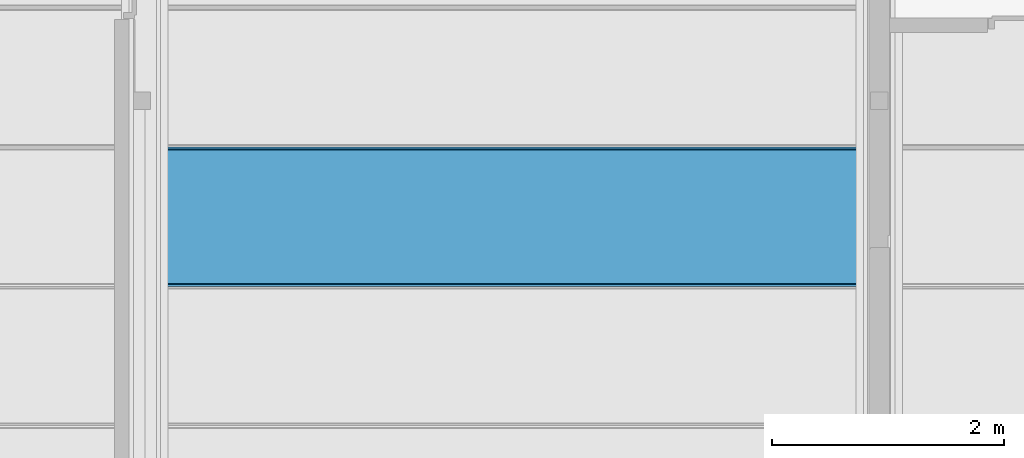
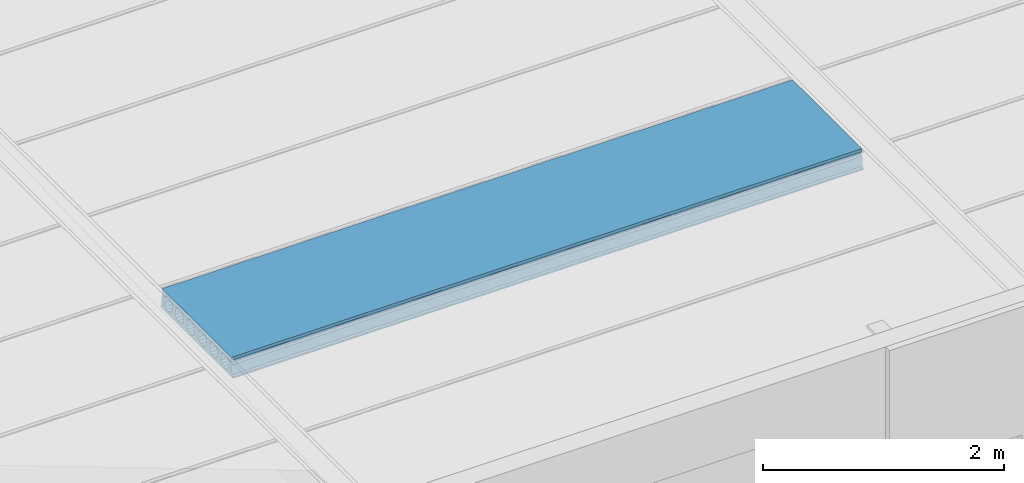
# One storey, part 8 of 45: 1 beam.
"""IFC2X3 building model written with IfcOpenShell, lengths in millimetres."""

from ifc_helpers import new_model, entity, si_unit, converted_unit, frame, origin, place, context, subcontext, project, spatial, faceted_brep, material, element, save


model = new_model("IFC2X3")

# Units and contexts
model_context = context("Model", 3, precision=1e-05, world=origin())
plan_context = context("Plan", 3, precision=1e-05, world=origin())
body_context = subcontext(model_context, "Body", "Model", "MODEL_VIEW")
ifc_project = project(units=[si_unit("LENGTHUNIT", "METRE", prefix="MILLI"), converted_unit("PLANEANGLEUNIT", "DEGREE", entity("IfcPlaneAngleMeasure", 0.0174532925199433), si_unit("PLANEANGLEUNIT", "RADIAN"), dimensions=[0, 0, 0, 0, 0, 0, 0]), si_unit("AREAUNIT", "SQUARE_METRE"), si_unit("VOLUMEUNIT", "CUBIC_METRE")], contexts=[model_context, plan_context])

# Building, storey
building_placement = place(None, origin())
building = spatial("IfcBuilding", under=ifc_project, at=building_placement, Name="HEKF Administrasjonbygg", CompositionType="ELEMENT")
storey_placement = place(building_placement, frame((0.0, 0.0, 6500.0), z_axis=(0.0, 0.0, 1.0), x_axis=(1.0, 0.0, 0.0)))
storey = spatial("IfcBuildingStorey", under=building, at=storey_placement, Name="Plan 1", CompositionType="ELEMENT", Elevation=6500.0)

# Beam
ifc_material = material()
beam_placement = place(storey_placement, frame((0.0, 0.0, -6500.0), z_axis=(0.0, 0.0, 1.0), x_axis=(1.0, 0.0, 0.0)))
element("IfcBeam", 1, at=beam_placement, inside=storey, material=ifc_material, context=body_context, shape_type="Brep", body=[
    faceted_brep([(10135.0, -8399.999999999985, 9684.999999), (10135.0, -8399.999999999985, 9670.0), (16189.99999999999, -8400.0, 9670.000000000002), (16189.99999999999, -8400.0, 9684.999999), (10135.0, -9599.999999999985, 9684.999999), (10135.0, -9599.999999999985, 9670.0), (10135.0, -8399.999999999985, 9670.0), (10135.0, -8399.999999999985, 9684.999999), (10135.0, -8414.99987952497, 9699.999998), (10135.0, -8420.000002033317, 9794.999985), (10135.0, -8435.000003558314, 9809.999985), (10135.0, -8435.000003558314, 9829.999985), (10135.0, -8422.727297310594, 9842.272583), (10135.0, -8424.047732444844, 9870.0), (10135.0, -9575.95237255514, 9870.0), (10135.0, -9577.272729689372, 9842.272735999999), (10135.0, -9565.00000044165, 9829.999985), (10135.0, -9565.00000044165, 9809.999985), (10135.0, -9580.000001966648, 9794.999985), (10135.0, -9584.999999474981, 9699.999998), (10135.0, -9474.999987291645, 9694.999989), (10135.0, -9503.701261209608, 9700.709023), (10135.0, -9528.033020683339, 9716.966995), (10135.0, -9544.290964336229, 9741.298752), (10135.0, -9544.290960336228, 9798.701262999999), (10135.0, -9528.03299768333, 9823.03299), (10135.0, -9503.70124620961, 9839.290955), (10135.0, -9474.999987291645, 9845.0), (10135.0, -9446.298721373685, 9839.290955), (10135.0, -9421.96697689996, 9823.033005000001), (10135.0, -9405.709010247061, 9798.701233), (10135.0, -9405.708980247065, 9741.298767), (10135.0, -9421.966961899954, 9716.966995), (10135.0, -9446.29870537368, 9700.709023), (10135.0, -9284.999967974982, 9694.999989), (10135.0, -9313.701241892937, 9700.709023), (10135.0, -9338.033001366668, 9716.966995), (10135.0, -9354.290945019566, 9741.298752), (10135.0, -9354.290941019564, 9798.701262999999), (10135.0, -9338.032978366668, 9823.03299), (10135.0, -9313.70122689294, 9839.290955), (10135.0, -9284.999967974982, 9845.0), (10135.0, -9256.298702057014, 9839.290955), (10135.0, -9231.966957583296, 9823.033005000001), (10135.0, -9215.708990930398, 9798.701233), (10135.0, -9215.708960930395, 9741.298767), (10135.0, -9231.966942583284, 9716.966995), (10135.0, -9256.298686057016, 9700.709023), (10135.0, -9094.999948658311, 9694.999989), (10135.0, -9123.701222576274, 9700.709023), (10135.0, -9148.032982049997, 9716.966995), (10135.0, -9164.290925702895, 9741.298752), (10135.0, -9164.290921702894, 9798.701262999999), (10135.0, -9148.032959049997, 9823.03299), (10135.0, -9123.701207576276, 9839.290955), (10135.0, -9094.999948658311, 9845.0), (10135.0, -9066.298682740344, 9839.290955), (10135.0, -9041.966938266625, 9823.033005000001), (10135.0, -9025.708971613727, 9798.701233), (10135.0, -9025.708941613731, 9741.298767), (10135.0, -9041.96692326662, 9716.966995), (10135.0, -9066.298666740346, 9700.709023), (10135.0, -8904.99992934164, 9694.999989), (10135.0, -8933.701203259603, 9700.709023), (10135.0, -8958.032962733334, 9716.966995), (10135.0, -8974.290906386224, 9741.298752), (10135.0, -8974.290902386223, 9798.701262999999), (10135.0, -8958.032939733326, 9823.03299), (10135.0, -8933.701188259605, 9839.290955), (10135.0, -8904.99992934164, 9845.0), (10135.0, -8876.29866342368, 9839.290955), (10135.0, -8851.966918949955, 9823.033005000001), (10135.0, -8835.708952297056, 9798.701233), (10135.0, -8835.70892229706, 9741.298767), (10135.0, -8851.96690394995, 9716.966995), (10135.0, -8876.298647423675, 9700.709023), (10135.0, -8714.999910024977, 9694.999989), (10135.0, -8743.701183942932, 9700.709023), (10135.0, -8768.032943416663, 9716.966995), (10135.0, -8784.290887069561, 9741.298752), (10135.0, -8784.29088306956, 9798.701262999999), (10135.0, -8768.032920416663, 9823.03299), (10135.0, -8743.701168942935, 9839.290955), (10135.0, -8714.999910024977, 9845.0), (10135.0, -8686.29864410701, 9839.290955), (10135.0, -8661.966899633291, 9823.033005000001), (10135.0, -8645.708932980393, 9798.701233), (10135.0, -8645.70890298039, 9741.298767), (10135.0, -8661.966884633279, 9716.966995), (10135.0, -8686.298628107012, 9700.709023), (10135.0, -8524.999890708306, 9694.999989), (10135.0, -8553.701164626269, 9700.709023), (10135.0, -8578.032924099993, 9716.966995), (10135.0, -8594.29086775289, 9741.298752), (10135.0, -8594.290863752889, 9798.701262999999), (10135.0, -8578.032901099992, 9823.03299), (10135.0, -8553.701149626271, 9839.290955), (10135.0, -8524.999890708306, 9845.0), (10135.0, -8496.298624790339, 9839.290955), (10135.0, -8471.96688031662, 9823.033005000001), (10135.0, -8455.708913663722, 9798.701233), (10135.0, -8455.708883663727, 9741.298767), (10135.0, -8471.966865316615, 9716.966995), (10135.0, -8496.298608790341, 9700.709023), (16190.0, -9600.0, 9684.999999), (16190.0, -9600.0, 9670.0), (10135.0, -9599.999999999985, 9670.0), (10135.0, -9599.999999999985, 9684.999999), (16189.99999999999, -8400.0, 9684.999999), (16189.99999999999, -8400.0, 9670.000000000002), (16190.0, -9600.0, 9670.0), (16190.0, -9600.0, 9684.999999), (16190.0, -9584.999999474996, 9699.999998), (16190.0, -9580.000001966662, 9794.999985), (16190.0, -9565.000000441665, 9809.999985), (16190.0, -9565.000000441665, 9829.999985), (16190.0, -9577.272729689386, 9842.272735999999), (16190.0, -9575.952372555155, 9870.0), (16190.0, -8424.047732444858, 9870.0), (16190.0, -8422.727297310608, 9842.272583), (16190.0, -8435.000003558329, 9829.999985), (16190.0, -8435.000003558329, 9809.999985), (16190.0, -8420.000002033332, 9794.999985), (16190.0, -8414.999879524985, 9699.999998), (16190.0, -8524.99989070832, 9694.999989), (16190.0, -8496.298608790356, 9700.709023), (16190.0, -8471.96686531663, 9716.966995), (16190.0, -8455.708883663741, 9741.298767), (16190.0, -8455.708913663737, 9798.701233), (16190.0, -8471.966880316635, 9823.033005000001), (16190.0, -8496.298624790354, 9839.290955), (16190.0, -8524.99989070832, 9845.0), (16190.0, -8553.701149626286, 9839.290955), (16190.0, -8578.032901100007, 9823.03299), (16190.0, -8594.290863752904, 9798.701262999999), (16190.0, -8594.290867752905, 9741.298752), (16190.0, -8578.032924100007, 9716.966995), (16190.0, -8553.701164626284, 9700.709023), (16190.0, -8714.999910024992, 9694.999989), (16190.0, -8686.298628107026, 9700.709023), (16190.0, -8661.966884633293, 9716.966995), (16190.0, -8645.708902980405, 9741.298767), (16190.0, -8645.708932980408, 9798.701233), (16190.0, -8661.966899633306, 9823.033005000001), (16190.0, -8686.298644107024, 9839.290955), (16190.0, -8714.999910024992, 9845.0), (16190.0, -8743.70116894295, 9839.290955), (16190.0, -8768.032920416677, 9823.03299), (16190.0, -8784.290883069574, 9798.701262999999), (16190.0, -8784.290887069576, 9741.298752), (16190.0, -8768.032943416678, 9716.966995), (16190.0, -8743.701183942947, 9700.709023), (16190.0, -8904.999929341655, 9694.999989), (16190.0, -8876.29864742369, 9700.709023), (16190.0, -8851.966903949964, 9716.966995), (16190.0, -8835.708922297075, 9741.298767), (16190.0, -8835.708952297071, 9798.701233), (16190.0, -8851.96691894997, 9823.033005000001), (16190.0, -8876.298663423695, 9839.290955), (16190.0, -8904.999929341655, 9845.0), (16190.0, -8933.70118825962, 9839.290955), (16190.0, -8958.03293973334, 9823.03299), (16190.0, -8974.290902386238, 9798.701262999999), (16190.0, -8974.290906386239, 9741.298752), (16190.0, -8958.032962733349, 9716.966995), (16190.0, -8933.701203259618, 9700.709023), (16190.0, -9094.999948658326, 9694.999989), (16190.0, -9066.29866674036, 9700.709023), (16190.0, -9041.966923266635, 9716.966995), (16190.0, -9025.708941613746, 9741.298767), (16190.0, -9025.708971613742, 9798.701233), (16190.0, -9041.96693826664, 9823.033005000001), (16190.0, -9066.298682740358, 9839.290955), (16190.0, -9094.999948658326, 9845.0), (16190.0, -9123.70120757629, 9839.290955), (16190.0, -9148.032959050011, 9823.03299), (16190.0, -9164.290921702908, 9798.701262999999), (16190.0, -9164.29092570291, 9741.298752), (16190.0, -9148.032982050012, 9716.966995), (16190.0, -9123.701222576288, 9700.709023), (16190.0, -9284.999967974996, 9694.999989), (16190.0, -9256.29868605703, 9700.709023), (16190.0, -9231.966942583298, 9716.966995), (16190.0, -9215.70896093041, 9741.298767), (16190.0, -9215.708990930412, 9798.701233), (16190.0, -9231.96695758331, 9823.033005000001), (16190.0, -9256.298702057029, 9839.290955), (16190.0, -9284.999967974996, 9845.0), (16190.0, -9313.701226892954, 9839.290955), (16190.0, -9338.032978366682, 9823.03299), (16190.0, -9354.290941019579, 9798.701262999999), (16190.0, -9354.29094501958, 9741.298752), (16190.0, -9338.033001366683, 9716.966995), (16190.0, -9313.701241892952, 9700.709023), (16190.0, -9474.99998729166, 9694.999989), (16190.0, -9446.298705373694, 9700.709023), (16190.0, -9421.966961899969, 9716.966995), (16190.0, -9405.70898024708, 9741.298767), (16190.0, -9405.709010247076, 9798.701233), (16190.0, -9421.966976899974, 9823.033005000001), (16190.0, -9446.2987213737, 9839.290955), (16190.0, -9474.99998729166, 9845.0), (16190.0, -9503.701246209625, 9839.290955), (16190.0, -9528.032997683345, 9823.03299), (16190.0, -9544.290960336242, 9798.701262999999), (16190.0, -9544.290964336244, 9741.298752), (16190.0, -9528.033020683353, 9716.966995), (16190.0, -9503.701261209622, 9700.709023), (10135.0, -9599.999999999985, 9684.999999), (10135.0, -9584.999999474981, 9699.999998), (16190.0, -9584.999999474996, 9699.999998), (16190.0, -9600.0, 9684.999999), (10135.0, -9584.999999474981, 9699.999998), (10135.0, -9580.000001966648, 9794.999985), (16190.0, -9580.000001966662, 9794.999985), (16190.0, -9584.999999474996, 9699.999998), (10135.0, -9580.000001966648, 9794.999985), (10135.0, -9565.00000044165, 9809.999985), (16190.0, -9565.000000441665, 9809.999985), (16190.0, -9580.000001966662, 9794.999985), (10135.0, -9565.00000044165, 9809.999985), (10135.0, -9565.00000044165, 9829.999985), (16190.0, -9565.000000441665, 9829.999985), (16190.0, -9565.000000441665, 9809.999985), (10135.0, -9565.00000044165, 9829.999985), (10135.0, -9577.272729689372, 9842.272735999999), (16190.0, -9577.272729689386, 9842.272735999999), (16190.0, -9565.000000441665, 9829.999985), (10135.0, -9577.272729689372, 9842.272735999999), (10135.0, -9575.95237255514, 9870.0), (16190.0, -9575.952372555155, 9870.0), (16190.0, -9577.272729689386, 9842.272735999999), (10135.0, -9575.95237255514, 9870.0), (10135.0, -8424.047732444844, 9870.0), (16190.0, -8424.047732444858, 9870.0), (16190.0, -9575.952372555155, 9870.0), (10135.0, -8424.047732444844, 9870.0), (10135.0, -8422.727297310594, 9842.272583), (16190.0, -8422.727297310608, 9842.272583), (16190.0, -8424.047732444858, 9870.0), (10135.0, -8422.727297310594, 9842.272583), (10135.0, -8435.000003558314, 9829.999985), (16190.0, -8435.000003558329, 9829.999985), (16190.0, -8422.727297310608, 9842.272583), (10135.0, -8435.000003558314, 9829.999985), (10135.0, -8435.000003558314, 9809.999985), (16190.0, -8435.000003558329, 9809.999985), (16190.0, -8435.000003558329, 9829.999985), (10135.0, -8435.000003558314, 9809.999985), (10135.0, -8420.000002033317, 9794.999985), (16190.0, -8420.000002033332, 9794.999985), (16190.0, -8435.000003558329, 9809.999985), (10135.0, -8420.000002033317, 9794.999985), (10135.0, -8414.99987952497, 9699.999998), (16190.0, -8414.999879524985, 9699.999998), (16190.0, -8420.000002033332, 9794.999985), (10135.0, -8414.99987952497, 9699.999998), (10135.0, -8399.999999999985, 9684.999999), (16189.99999999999, -8400.0, 9684.999999), (16190.0, -8414.999879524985, 9699.999998), (10135.0, -8399.999999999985, 9670.0), (10135.0, -9599.999999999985, 9670.0), (16190.0, -9600.0, 9670.0), (16189.99999999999, -8400.0, 9670.000000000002), (10135.0, -8524.999890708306, 9694.999989), (10135.0, -8496.298608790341, 9700.709023), (16190.0, -8496.298608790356, 9700.709023), (16190.0, -8524.99989070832, 9694.999989), (10135.0, -8496.298608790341, 9700.709023), (10135.0, -8471.966865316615, 9716.966995), (16190.0, -8471.96686531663, 9716.966995), (16190.0, -8496.298608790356, 9700.709023), (10135.0, -8471.966865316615, 9716.966995), (10135.0, -8455.708883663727, 9741.298767), (16190.0, -8455.708883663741, 9741.298767), (16190.0, -8471.96686531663, 9716.966995), (10135.0, -8455.708883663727, 9741.298767), (10135.0, -8455.708913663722, 9798.701233), (16190.0, -8455.708913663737, 9798.701233), (16190.0, -8455.708883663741, 9741.298767), (10135.0, -8455.708913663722, 9798.701233), (10135.0, -8471.96688031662, 9823.033005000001), (16190.0, -8471.966880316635, 9823.033005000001), (16190.0, -8455.708913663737, 9798.701233), (10135.0, -8471.96688031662, 9823.033005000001), (10135.0, -8496.298624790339, 9839.290955), (16190.0, -8496.298624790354, 9839.290955), (16190.0, -8471.966880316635, 9823.033005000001), (10135.0, -8496.298624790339, 9839.290955), (10135.0, -8524.999890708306, 9845.0), (16190.0, -8524.99989070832, 9845.0), (16190.0, -8496.298624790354, 9839.290955), (10135.0, -8524.999890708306, 9845.0), (10135.0, -8553.701149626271, 9839.290955), (16190.0, -8553.701149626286, 9839.290955), (16190.0, -8524.99989070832, 9845.0), (10135.0, -8553.701149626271, 9839.290955), (10135.0, -8578.032901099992, 9823.03299), (16190.0, -8578.032901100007, 9823.03299), (16190.0, -8553.701149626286, 9839.290955), (10135.0, -8578.032901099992, 9823.03299), (10135.0, -8594.290863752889, 9798.701262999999), (16190.0, -8594.290863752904, 9798.701262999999), (16190.0, -8578.032901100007, 9823.03299), (10135.0, -8594.290863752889, 9798.701262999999), (10135.0, -8594.29086775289, 9741.298752), (16190.0, -8594.290867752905, 9741.298752), (16190.0, -8594.290863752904, 9798.701262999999), (10135.0, -8594.29086775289, 9741.298752), (10135.0, -8578.032924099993, 9716.966995), (16190.0, -8578.032924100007, 9716.966995), (16190.0, -8594.290867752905, 9741.298752), (10135.0, -8578.032924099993, 9716.966995), (10135.0, -8553.701164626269, 9700.709023), (16190.0, -8553.701164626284, 9700.709023), (16190.0, -8578.032924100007, 9716.966995), (10135.0, -8553.701164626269, 9700.709023), (10135.0, -8524.999890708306, 9694.999989), (16190.0, -8524.99989070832, 9694.999989), (16190.0, -8553.701164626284, 9700.709023), (10135.0, -8714.999910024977, 9694.999989), (10135.0, -8686.298628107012, 9700.709023), (16190.0, -8686.298628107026, 9700.709023), (16190.0, -8714.999910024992, 9694.999989), (10135.0, -8686.298628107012, 9700.709023), (10135.0, -8661.966884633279, 9716.966995), (16190.0, -8661.966884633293, 9716.966995), (16190.0, -8686.298628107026, 9700.709023), (10135.0, -8661.966884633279, 9716.966995), (10135.0, -8645.70890298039, 9741.298767), (16190.0, -8645.708902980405, 9741.298767), (16190.0, -8661.966884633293, 9716.966995), (10135.0, -8645.70890298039, 9741.298767), (10135.0, -8645.708932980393, 9798.701233), (16190.0, -8645.708932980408, 9798.701233), (16190.0, -8645.708902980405, 9741.298767), (10135.0, -8645.708932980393, 9798.701233), (10135.0, -8661.966899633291, 9823.033005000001), (16190.0, -8661.966899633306, 9823.033005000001), (16190.0, -8645.708932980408, 9798.701233), (10135.0, -8661.966899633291, 9823.033005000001), (10135.0, -8686.29864410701, 9839.290955), (16190.0, -8686.298644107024, 9839.290955), (16190.0, -8661.966899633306, 9823.033005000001), (10135.0, -8686.29864410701, 9839.290955), (10135.0, -8714.999910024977, 9845.0), (16190.0, -8714.999910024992, 9845.0), (16190.0, -8686.298644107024, 9839.290955), (10135.0, -8714.999910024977, 9845.0), (10135.0, -8743.701168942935, 9839.290955), (16190.0, -8743.70116894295, 9839.290955), (16190.0, -8714.999910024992, 9845.0), (10135.0, -8743.701168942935, 9839.290955), (10135.0, -8768.032920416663, 9823.03299), (16190.0, -8768.032920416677, 9823.03299), (16190.0, -8743.70116894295, 9839.290955), (10135.0, -8768.032920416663, 9823.03299), (10135.0, -8784.29088306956, 9798.701262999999), (16190.0, -8784.290883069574, 9798.701262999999), (16190.0, -8768.032920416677, 9823.03299), (10135.0, -8784.29088306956, 9798.701262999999), (10135.0, -8784.290887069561, 9741.298752), (16190.0, -8784.290887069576, 9741.298752), (16190.0, -8784.290883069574, 9798.701262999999), (10135.0, -8784.290887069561, 9741.298752), (10135.0, -8768.032943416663, 9716.966995), (16190.0, -8768.032943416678, 9716.966995), (16190.0, -8784.290887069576, 9741.298752), (10135.0, -8768.032943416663, 9716.966995), (10135.0, -8743.701183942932, 9700.709023), (16190.0, -8743.701183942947, 9700.709023), (16190.0, -8768.032943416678, 9716.966995), (10135.0, -8743.701183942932, 9700.709023), (10135.0, -8714.999910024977, 9694.999989), (16190.0, -8714.999910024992, 9694.999989), (16190.0, -8743.701183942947, 9700.709023), (10135.0, -8904.99992934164, 9694.999989), (10135.0, -8876.298647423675, 9700.709023), (16190.0, -8876.29864742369, 9700.709023), (16190.0, -8904.999929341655, 9694.999989), (10135.0, -8876.298647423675, 9700.709023), (10135.0, -8851.96690394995, 9716.966995), (16190.0, -8851.966903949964, 9716.966995), (16190.0, -8876.29864742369, 9700.709023), (10135.0, -8851.96690394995, 9716.966995), (10135.0, -8835.70892229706, 9741.298767), (16190.0, -8835.708922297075, 9741.298767), (16190.0, -8851.966903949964, 9716.966995), (10135.0, -8835.70892229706, 9741.298767), (10135.0, -8835.708952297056, 9798.701233), (16190.0, -8835.708952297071, 9798.701233), (16190.0, -8835.708922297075, 9741.298767), (10135.0, -8835.708952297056, 9798.701233), (10135.0, -8851.966918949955, 9823.033005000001), (16190.0, -8851.96691894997, 9823.033005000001), (16190.0, -8835.708952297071, 9798.701233), (10135.0, -8851.966918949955, 9823.033005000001), (10135.0, -8876.29866342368, 9839.290955), (16190.0, -8876.298663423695, 9839.290955), (16190.0, -8851.96691894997, 9823.033005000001), (10135.0, -8876.29866342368, 9839.290955), (10135.0, -8904.99992934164, 9845.0), (16190.0, -8904.999929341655, 9845.0), (16190.0, -8876.298663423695, 9839.290955), (10135.0, -8904.99992934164, 9845.0), (10135.0, -8933.701188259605, 9839.290955), (16190.0, -8933.70118825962, 9839.290955), (16190.0, -8904.999929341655, 9845.0), (10135.0, -8933.701188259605, 9839.290955), (10135.0, -8958.032939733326, 9823.03299), (16190.0, -8958.03293973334, 9823.03299), (16190.0, -8933.70118825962, 9839.290955), (10135.0, -8958.032939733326, 9823.03299), (10135.0, -8974.290902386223, 9798.701262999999), (16190.0, -8974.290902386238, 9798.701262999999), (16190.0, -8958.03293973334, 9823.03299), (10135.0, -8974.290902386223, 9798.701262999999), (10135.0, -8974.290906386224, 9741.298752), (16190.0, -8974.290906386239, 9741.298752), (16190.0, -8974.290902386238, 9798.701262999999), (10135.0, -8974.290906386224, 9741.298752), (10135.0, -8958.032962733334, 9716.966995), (16190.0, -8958.032962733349, 9716.966995), (16190.0, -8974.290906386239, 9741.298752), (10135.0, -8958.032962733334, 9716.966995), (10135.0, -8933.701203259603, 9700.709023), (16190.0, -8933.701203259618, 9700.709023), (16190.0, -8958.032962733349, 9716.966995), (10135.0, -8933.701203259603, 9700.709023), (10135.0, -8904.99992934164, 9694.999989), (16190.0, -8904.999929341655, 9694.999989), (16190.0, -8933.701203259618, 9700.709023), (10135.0, -9094.999948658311, 9694.999989), (10135.0, -9066.298666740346, 9700.709023), (16190.0, -9066.29866674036, 9700.709023), (16190.0, -9094.999948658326, 9694.999989), (10135.0, -9066.298666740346, 9700.709023), (10135.0, -9041.96692326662, 9716.966995), (16190.0, -9041.966923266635, 9716.966995), (16190.0, -9066.29866674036, 9700.709023), (10135.0, -9041.96692326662, 9716.966995), (10135.0, -9025.708941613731, 9741.298767), (16190.0, -9025.708941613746, 9741.298767), (16190.0, -9041.966923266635, 9716.966995), (10135.0, -9025.708941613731, 9741.298767), (10135.0, -9025.708971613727, 9798.701233), (16190.0, -9025.708971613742, 9798.701233), (16190.0, -9025.708941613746, 9741.298767), (10135.0, -9025.708971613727, 9798.701233), (10135.0, -9041.966938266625, 9823.033005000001), (16190.0, -9041.96693826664, 9823.033005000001), (16190.0, -9025.708971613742, 9798.701233), (10135.0, -9041.966938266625, 9823.033005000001), (10135.0, -9066.298682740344, 9839.290955), (16190.0, -9066.298682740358, 9839.290955), (16190.0, -9041.96693826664, 9823.033005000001), (10135.0, -9066.298682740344, 9839.290955), (10135.0, -9094.999948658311, 9845.0), (16190.0, -9094.999948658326, 9845.0), (16190.0, -9066.298682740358, 9839.290955), (10135.0, -9094.999948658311, 9845.0), (10135.0, -9123.701207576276, 9839.290955), (16190.0, -9123.70120757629, 9839.290955), (16190.0, -9094.999948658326, 9845.0), (10135.0, -9123.701207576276, 9839.290955), (10135.0, -9148.032959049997, 9823.03299), (16190.0, -9148.032959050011, 9823.03299), (16190.0, -9123.70120757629, 9839.290955), (10135.0, -9148.032959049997, 9823.03299), (10135.0, -9164.290921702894, 9798.701262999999), (16190.0, -9164.290921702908, 9798.701262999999), (16190.0, -9148.032959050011, 9823.03299), (10135.0, -9164.290921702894, 9798.701262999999), (10135.0, -9164.290925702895, 9741.298752), (16190.0, -9164.29092570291, 9741.298752), (16190.0, -9164.290921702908, 9798.701262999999), (10135.0, -9164.290925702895, 9741.298752), (10135.0, -9148.032982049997, 9716.966995), (16190.0, -9148.032982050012, 9716.966995), (16190.0, -9164.29092570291, 9741.298752), (10135.0, -9148.032982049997, 9716.966995), (10135.0, -9123.701222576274, 9700.709023), (16190.0, -9123.701222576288, 9700.709023), (16190.0, -9148.032982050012, 9716.966995), (10135.0, -9123.701222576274, 9700.709023), (10135.0, -9094.999948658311, 9694.999989), (16190.0, -9094.999948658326, 9694.999989), (16190.0, -9123.701222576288, 9700.709023), (10135.0, -9284.999967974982, 9694.999989), (10135.0, -9256.298686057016, 9700.709023), (16190.0, -9256.29868605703, 9700.709023), (16190.0, -9284.999967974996, 9694.999989), (10135.0, -9256.298686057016, 9700.709023), (10135.0, -9231.966942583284, 9716.966995), (16190.0, -9231.966942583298, 9716.966995), (16190.0, -9256.29868605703, 9700.709023), (10135.0, -9231.966942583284, 9716.966995), (10135.0, -9215.708960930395, 9741.298767), (16190.0, -9215.70896093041, 9741.298767), (16190.0, -9231.966942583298, 9716.966995), (10135.0, -9215.708960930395, 9741.298767), (10135.0, -9215.708990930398, 9798.701233), (16190.0, -9215.708990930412, 9798.701233), (16190.0, -9215.70896093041, 9741.298767), (10135.0, -9215.708990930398, 9798.701233), (10135.0, -9231.966957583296, 9823.033005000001), (16190.0, -9231.96695758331, 9823.033005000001), (16190.0, -9215.708990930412, 9798.701233), (10135.0, -9231.966957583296, 9823.033005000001), (10135.0, -9256.298702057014, 9839.290955), (16190.0, -9256.298702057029, 9839.290955), (16190.0, -9231.96695758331, 9823.033005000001), (10135.0, -9256.298702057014, 9839.290955), (10135.0, -9284.999967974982, 9845.0), (16190.0, -9284.999967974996, 9845.0), (16190.0, -9256.298702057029, 9839.290955), (10135.0, -9284.999967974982, 9845.0), (10135.0, -9313.70122689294, 9839.290955), (16190.0, -9313.701226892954, 9839.290955), (16190.0, -9284.999967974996, 9845.0), (10135.0, -9313.70122689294, 9839.290955), (10135.0, -9338.032978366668, 9823.03299), (16190.0, -9338.032978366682, 9823.03299), (16190.0, -9313.701226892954, 9839.290955), (10135.0, -9338.032978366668, 9823.03299), (10135.0, -9354.290941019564, 9798.701262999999), (16190.0, -9354.290941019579, 9798.701262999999), (16190.0, -9338.032978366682, 9823.03299), (10135.0, -9354.290941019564, 9798.701262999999), (10135.0, -9354.290945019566, 9741.298752), (16190.0, -9354.29094501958, 9741.298752), (16190.0, -9354.290941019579, 9798.701262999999), (10135.0, -9354.290945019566, 9741.298752), (10135.0, -9338.033001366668, 9716.966995), (16190.0, -9338.033001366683, 9716.966995), (16190.0, -9354.29094501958, 9741.298752), (10135.0, -9338.033001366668, 9716.966995), (10135.0, -9313.701241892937, 9700.709023), (16190.0, -9313.701241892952, 9700.709023), (16190.0, -9338.033001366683, 9716.966995), (10135.0, -9313.701241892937, 9700.709023), (10135.0, -9284.999967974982, 9694.999989), (16190.0, -9284.999967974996, 9694.999989), (16190.0, -9313.701241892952, 9700.709023), (10135.0, -9474.999987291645, 9694.999989), (10135.0, -9446.29870537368, 9700.709023), (16190.0, -9446.298705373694, 9700.709023), (16190.0, -9474.99998729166, 9694.999989), (10135.0, -9446.29870537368, 9700.709023), (10135.0, -9421.966961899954, 9716.966995), (16190.0, -9421.966961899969, 9716.966995), (16190.0, -9446.298705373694, 9700.709023), (10135.0, -9421.966961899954, 9716.966995), (10135.0, -9405.708980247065, 9741.298767), (16190.0, -9405.70898024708, 9741.298767), (16190.0, -9421.966961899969, 9716.966995), (10135.0, -9405.708980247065, 9741.298767), (10135.0, -9405.709010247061, 9798.701233), (16190.0, -9405.709010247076, 9798.701233), (16190.0, -9405.70898024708, 9741.298767), (10135.0, -9405.709010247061, 9798.701233), (10135.0, -9421.96697689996, 9823.033005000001), (16190.0, -9421.966976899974, 9823.033005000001), (16190.0, -9405.709010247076, 9798.701233), (10135.0, -9421.96697689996, 9823.033005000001), (10135.0, -9446.298721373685, 9839.290955), (16190.0, -9446.2987213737, 9839.290955), (16190.0, -9421.966976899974, 9823.033005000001), (10135.0, -9446.298721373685, 9839.290955), (10135.0, -9474.999987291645, 9845.0), (16190.0, -9474.99998729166, 9845.0), (16190.0, -9446.2987213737, 9839.290955), (10135.0, -9474.999987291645, 9845.0), (10135.0, -9503.70124620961, 9839.290955), (16190.0, -9503.701246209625, 9839.290955), (16190.0, -9474.99998729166, 9845.0), (10135.0, -9503.70124620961, 9839.290955), (10135.0, -9528.03299768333, 9823.03299), (16190.0, -9528.032997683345, 9823.03299), (16190.0, -9503.701246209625, 9839.290955), (10135.0, -9528.03299768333, 9823.03299), (10135.0, -9544.290960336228, 9798.701262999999), (16190.0, -9544.290960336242, 9798.701262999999), (16190.0, -9528.032997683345, 9823.03299), (10135.0, -9544.290960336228, 9798.701262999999), (10135.0, -9544.290964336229, 9741.298752), (16190.0, -9544.290964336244, 9741.298752), (16190.0, -9544.290960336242, 9798.701262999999), (10135.0, -9544.290964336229, 9741.298752), (10135.0, -9528.033020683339, 9716.966995), (16190.0, -9528.033020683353, 9716.966995), (16190.0, -9544.290964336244, 9741.298752), (10135.0, -9528.033020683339, 9716.966995), (10135.0, -9503.701261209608, 9700.709023), (16190.0, -9503.701261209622, 9700.709023), (16190.0, -9528.033020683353, 9716.966995), (10135.0, -9503.701261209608, 9700.709023), (10135.0, -9474.999987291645, 9694.999989), (16190.0, -9474.99998729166, 9694.999989), (16190.0, -9503.701261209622, 9700.709023)], [[[0, 1, 2, 3]], [[4, 5, 6, 7, 8, 9, 10, 11, 12, 13, 14, 15, 16, 17, 18, 19], [20, 21, 22, 23, 24, 25, 26, 27, 28, 29, 30, 31, 32, 33], [34, 35, 36, 37, 38, 39, 40, 41, 42, 43, 44, 45, 46, 47], [48, 49, 50, 51, 52, 53, 54, 55, 56, 57, 58, 59, 60, 61], [62, 63, 64, 65, 66, 67, 68, 69, 70, 71, 72, 73, 74, 75], [76, 77, 78, 79, 80, 81, 82, 83, 84, 85, 86, 87, 88, 89], [90, 91, 92, 93, 94, 95, 96, 97, 98, 99, 100, 101, 102, 103]], [[104, 105, 106, 107]], [[108, 109, 110, 111, 112, 113, 114, 115, 116, 117, 118, 119, 120, 121, 122, 123], [124, 125, 126, 127, 128, 129, 130, 131, 132, 133, 134, 135, 136, 137], [138, 139, 140, 141, 142, 143, 144, 145, 146, 147, 148, 149, 150, 151], [152, 153, 154, 155, 156, 157, 158, 159, 160, 161, 162, 163, 164, 165], [166, 167, 168, 169, 170, 171, 172, 173, 174, 175, 176, 177, 178, 179], [180, 181, 182, 183, 184, 185, 186, 187, 188, 189, 190, 191, 192, 193], [194, 195, 196, 197, 198, 199, 200, 201, 202, 203, 204, 205, 206, 207]], [[208, 209, 210, 211]], [[212, 213, 214, 215]], [[216, 217, 218, 219]], [[220, 221, 222, 223]], [[224, 225, 226, 227]], [[228, 229, 230, 231]], [[232, 233, 234, 235]], [[236, 237, 238, 239]], [[240, 241, 242, 243]], [[244, 245, 246, 247]], [[248, 249, 250, 251]], [[252, 253, 254, 255]], [[256, 257, 258, 259]], [[260, 261, 262, 263]], [[264, 265, 266, 267]], [[268, 269, 270, 271]], [[272, 273, 274, 275]], [[276, 277, 278, 279]], [[280, 281, 282, 283]], [[284, 285, 286, 287]], [[288, 289, 290, 291]], [[292, 293, 294, 295]], [[296, 297, 298, 299]], [[300, 301, 302, 303]], [[304, 305, 306, 307]], [[308, 309, 310, 311]], [[312, 313, 314, 315]], [[316, 317, 318, 319]], [[320, 321, 322, 323]], [[324, 325, 326, 327]], [[328, 329, 330, 331]], [[332, 333, 334, 335]], [[336, 337, 338, 339]], [[340, 341, 342, 343]], [[344, 345, 346, 347]], [[348, 349, 350, 351]], [[352, 353, 354, 355]], [[356, 357, 358, 359]], [[360, 361, 362, 363]], [[364, 365, 366, 367]], [[368, 369, 370, 371]], [[372, 373, 374, 375]], [[376, 377, 378, 379]], [[380, 381, 382, 383]], [[384, 385, 386, 387]], [[388, 389, 390, 391]], [[392, 393, 394, 395]], [[396, 397, 398, 399]], [[400, 401, 402, 403]], [[404, 405, 406, 407]], [[408, 409, 410, 411]], [[412, 413, 414, 415]], [[416, 417, 418, 419]], [[420, 421, 422, 423]], [[424, 425, 426, 427]], [[428, 429, 430, 431]], [[432, 433, 434, 435]], [[436, 437, 438, 439]], [[440, 441, 442, 443]], [[444, 445, 446, 447]], [[448, 449, 450, 451]], [[452, 453, 454, 455]], [[456, 457, 458, 459]], [[460, 461, 462, 463]], [[464, 465, 466, 467]], [[468, 469, 470, 471]], [[472, 473, 474, 475]], [[476, 477, 478, 479]], [[480, 481, 482, 483]], [[484, 485, 486, 487]], [[488, 489, 490, 491]], [[492, 493, 494, 495]], [[496, 497, 498, 499]], [[500, 501, 502, 503]], [[504, 505, 506, 507]], [[508, 509, 510, 511]], [[512, 513, 514, 515]], [[516, 517, 518, 519]], [[520, 521, 522, 523]], [[524, 525, 526, 527]], [[528, 529, 530, 531]], [[532, 533, 534, 535]], [[536, 537, 538, 539]], [[540, 541, 542, 543]], [[544, 545, 546, 547]], [[548, 549, 550, 551]], [[552, 553, 554, 555]], [[556, 557, 558, 559]], [[560, 561, 562, 563]], [[564, 565, 566, 567]], [[568, 569, 570, 571]], [[572, 573, 574, 575]], [[576, 577, 578, 579]], [[580, 581, 582, 583]], [[584, 585, 586, 587]], [[588, 589, 590, 591]], [[592, 593, 594, 595]], [[596, 597, 598, 599]]], orient=[[False], [False, False, False, False, False, False, False], [False], [False, False, False, False, False, False, False], [False], [False], [False], [False], [False], [False], [False], [False], [False], [False], [False], [False], [False], [False], [False], [False], [False], [False], [False], [False], [False], [False], [False], [False], [False], [False], [False], [False], [False], [False], [False], [False], [False], [False], [False], [False], [False], [False], [False], [False], [False], [False], [False], [False], [False], [False], [False], [False], [False], [False], [False], [False], [False], [False], [False], [False], [False], [False], [False], [False], [False], [False], [False], [False], [False], [False], [False], [False], [False], [False], [False], [False], [False], [False], [False], [False], [False], [False], [False], [False], [False], [False], [False], [False], [False], [False], [False], [False], [False], [False], [False], [False], [False], [False], [False], [False], [False], [False]]),
])

save(model, "model.ifc")
